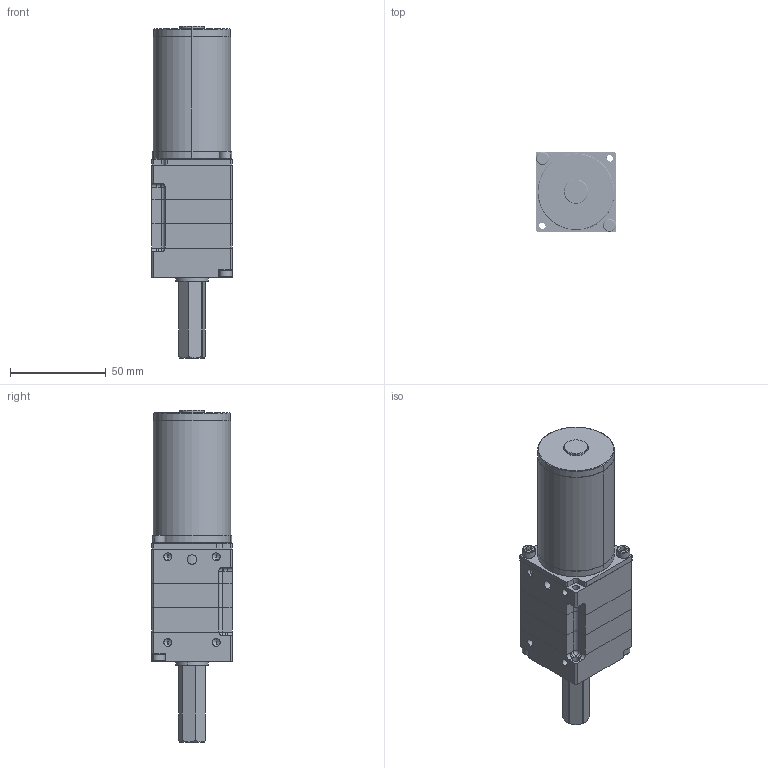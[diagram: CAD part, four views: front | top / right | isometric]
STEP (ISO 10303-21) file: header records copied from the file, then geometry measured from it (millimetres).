
FILE_DESCRIPTION (( 'STEP AP214' ), '1' );
FILE_NAME ('BAG 2 stage Release.STEP', '2014-02-17T17:29:14', ( 'IFMI-VEX04' ), ( '' ), 'SwSTEP 2.0', 'SolidWorks 2013', '' );
FILE_SCHEMA (( 'AUTOMOTIVE_DESIGN' ));
Length unit declared in the file: millimetre
Products named in the file (27): TRUARC-5103-68_97414A675_grv; SSS1032-0125ZB_94105A824; SPRGW0856-1102-012_9714K62; TRUARC-MSH-15_98541A410; 217-2741; 217-2742; 217-2625-007 Rev1_Sun_Driver01; 217-2625-100; 217-2625-005 Rev1_Planet_Revolving_Follower01; 217-2822-003 Rev4; 217-2818 Rev1; 217-2625-010 Rev1; 217-2724-002 Rev1; 217-2625-008 Rev1; 217-2725-002 Rev1_24t Planet; 217-2625-009 Rev1; 217-2725-001 Rev1_24t Sun; 217-2625-003 Rev1; SSHCM004_SSHCM004070010C; 217-2625-002 Rev1; SSA_SSA0832-0500ZC; 217-2625-001 Rev1; 217-2625-011 Rev1; SSA_SSA0832-1750ZC; BAG 2 stage Release; 217-2816-001 Rev1; 217-3351
Assembly tree (42 placements, depth 3):
  BAG 2 stage Release
    217-2625-001 Rev1
    217-2625-002 Rev1
    217-2625-003 Rev1
    217-2625-009 Rev1
    217-2625-100
      217-2625-008 Rev1
      217-2625-010 Rev1  x3
      217-2625-005 Rev1_Planet_Revolving_Follower01  x3
    217-2625-007 Rev1_Sun_Driver01
    217-2742  x2
    217-2741
    TRUARC-MSH-15_98541A410
    SPRGW0856-1102-012_9714K62
    SSS1032-0125ZB_94105A824
    TRUARC-5103-68_97414A675_grv
    217-3351
    217-2816-001 Rev1  x2
    SSA_SSA0832-1750ZC  x2
    217-2625-011 Rev1
    SSA_SSA0832-0500ZC  x2
    SSHCM004_SSHCM004070010C  x2
    217-2818 Rev1
      217-2725-001 Rev1_24t Sun
      217-2725-002 Rev1_24t Planet  x4
      217-2724-002 Rev1
      217-2625-010 Rev1  x4
    217-2822-003 Rev4
Bounding box: 42 x 42 x 173.58 mm (x, y, z)
Volume: 177995.8 mm3; surface area: 76218.4 mm2
Topology: 42 solids, 42 shells, 2561 faces, 6875 edges, 4430 vertices
Faces by surface type: cylinder 1070, bspline 588, plane 419, cone 332, torus 148, sphere 4
Entity records: 125854 total; most frequent: CARTESIAN_POINT 78233, ORIENTED_EDGE 10282, DIRECTION 8909, EDGE_CURVE 5141, AXIS2_PLACEMENT_3D 3628, VERTEX_POINT 3314, EDGE_LOOP 2067, CIRCLE 2035
